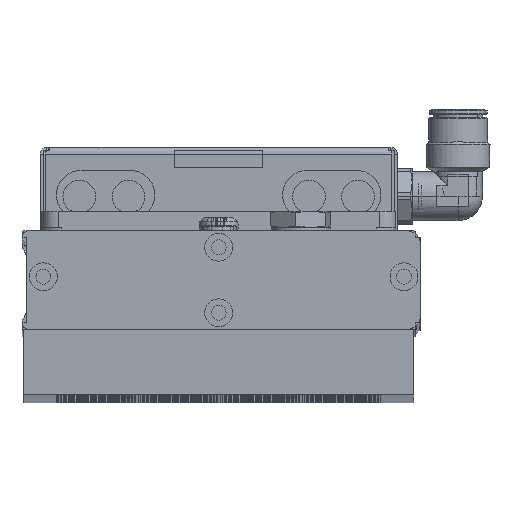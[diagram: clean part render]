
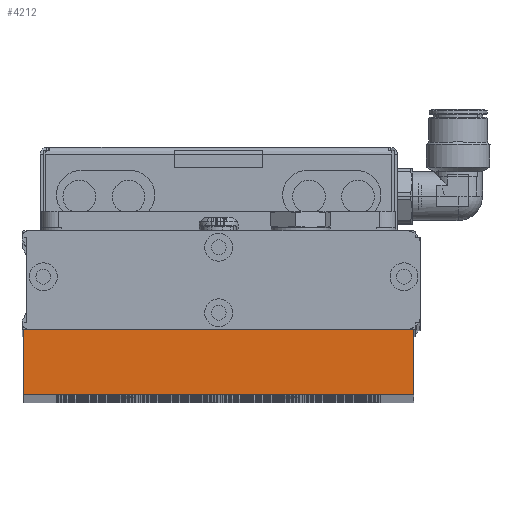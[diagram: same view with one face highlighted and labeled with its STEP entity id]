
A CAD part, top view. The second image highlights one B-rep face of the part: STEP entity #4212.
In plain terms, the highlighted planar face has unit normal (0, 0, 1).
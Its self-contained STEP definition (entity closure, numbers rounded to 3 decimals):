
#947 = CARTESIAN_POINT ( 'NONE',  ( -82.6, -51.3, 697. ) ) ;
#2102 = VERTEX_POINT ( 'NONE', #29534 ) ;
#4168 = EDGE_CURVE ( 'NONE', #31840, #12053, #28146, .T. ) ;
#4212 = ADVANCED_FACE ( 'NONE', ( #17709 ), #8861, .F. ) ;
#4345 = AXIS2_PLACEMENT_3D ( 'NONE', #12405, #22453, #19369 ) ;
#5558 = DIRECTION ( 'NONE',  ( 1., 0., 0. ) ) ;
#6172 = DIRECTION ( 'NONE',  ( 0., -1., 0. ) ) ;
#8861 = PLANE ( 'NONE',  #4345 ) ;
#9516 = VECTOR ( 'NONE', #5558, 1000. ) ;
#11899 = EDGE_CURVE ( 'NONE', #31840, #22879, #37027, .T. ) ;
#12053 = VERTEX_POINT ( 'NONE', #30100 ) ;
#12110 = LINE ( 'NONE', #35217, #9516 ) ;
#12405 = CARTESIAN_POINT ( 'NONE',  ( -82.6, -51.3, 697. ) ) ;
#12802 = ORIENTED_EDGE ( 'NONE', *, *, #11899, .T. ) ;
#17178 = CARTESIAN_POINT ( 'NONE',  ( 36.4, -51.3, 697. ) ) ;
#17709 = FACE_OUTER_BOUND ( 'NONE', #29781, .T. ) ;
#19369 = DIRECTION ( 'NONE',  ( 0., 1., 0. ) ) ;
#21636 = EDGE_CURVE ( 'NONE', #22879, #2102, #12110, .T. ) ;
#22453 = DIRECTION ( 'NONE',  ( 0., 0., -1. ) ) ;
#22736 = ORIENTED_EDGE ( 'NONE', *, *, #21636, .T. ) ;
#22879 = VERTEX_POINT ( 'NONE', #33940 ) ;
#23006 = LINE ( 'NONE', #17178, #42951 ) ;
#23141 = DIRECTION ( 'NONE',  ( 1., 0., 0. ) ) ;
#26114 = CARTESIAN_POINT ( 'NONE',  ( -82.6, -51.3, 697. ) ) ;
#26568 = VECTOR ( 'NONE', #6172, 1000. ) ;
#26686 = EDGE_CURVE ( 'NONE', #12053, #2102, #23006, .T. ) ;
#28146 = LINE ( 'NONE', #43258, #33415 ) ;
#29534 = CARTESIAN_POINT ( 'NONE',  ( 36.4, -71.3, 697. ) ) ;
#29781 = EDGE_LOOP ( 'NONE', ( #22736, #42351, #35266, #12802 ) ) ;
#30100 = CARTESIAN_POINT ( 'NONE',  ( 36.4, -51.3, 697. ) ) ;
#30579 = DIRECTION ( 'NONE',  ( 0., -1., 0. ) ) ;
#31840 = VERTEX_POINT ( 'NONE', #947 ) ;
#33415 = VECTOR ( 'NONE', #23141, 1000. ) ;
#33940 = CARTESIAN_POINT ( 'NONE',  ( -82.6, -71.3, 697. ) ) ;
#35217 = CARTESIAN_POINT ( 'NONE',  ( -82.6, -71.3, 697. ) ) ;
#35266 = ORIENTED_EDGE ( 'NONE', *, *, #4168, .F. ) ;
#37027 = LINE ( 'NONE', #26114, #26568 ) ;
#42351 = ORIENTED_EDGE ( 'NONE', *, *, #26686, .F. ) ;
#42951 = VECTOR ( 'NONE', #30579, 1000. ) ;
#43258 = CARTESIAN_POINT ( 'NONE',  ( -82.6, -51.3, 697. ) ) ;
